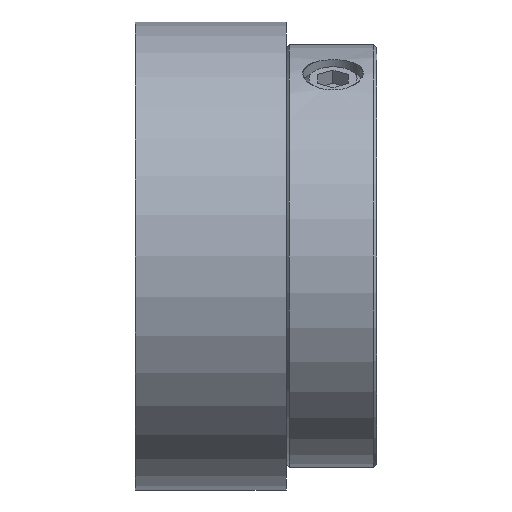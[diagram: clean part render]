
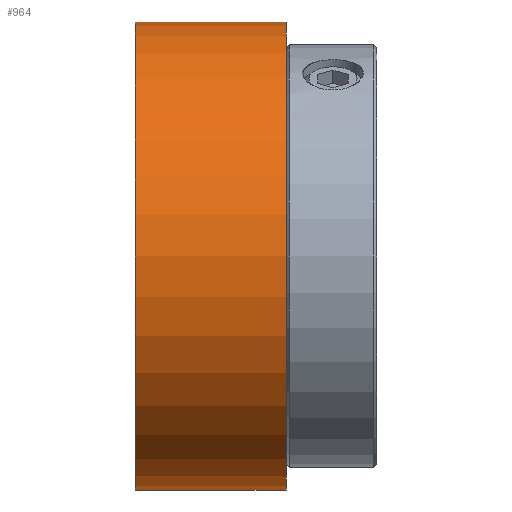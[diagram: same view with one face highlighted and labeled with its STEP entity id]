
A CAD part, front view. The second image highlights one B-rep face of the part: STEP entity #964.
In plain terms, the highlighted cylindrical face has radius 15.5 mm (diameter 31 mm), a full revolution.
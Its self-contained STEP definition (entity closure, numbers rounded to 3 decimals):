
#45 = AXIS2_PLACEMENT_3D ( 'NONE', #395, #396, #397 ) ;
#81 = AXIS2_PLACEMENT_3D ( 'NONE', #391, #392, #393 ) ;
#91 = AXIS2_PLACEMENT_3D ( 'NONE', #1216, #1218, #1219 ) ;
#215 = VERTEX_POINT ( 'NONE', #614 ) ;
#216 = VERTEX_POINT ( 'NONE', #615 ) ;
#242 = EDGE_LOOP ( 'NONE', ( #776 ) ) ;
#264 = CYLINDRICAL_SURFACE ( 'NONE', #91, 15.5 ) ;
#271 = FACE_OUTER_BOUND ( 'NONE', #1456, .T. ) ;
#275 = FACE_OUTER_BOUND ( 'NONE', #242, .T. ) ;
#391 = CARTESIAN_POINT ( 'NONE',  ( 9.5, 0., 0. ) ) ;
#392 = DIRECTION ( 'NONE',  ( 1., 0., 0. ) ) ;
#393 = DIRECTION ( 'NONE',  ( 0., 0., -1. ) ) ;
#395 = CARTESIAN_POINT ( 'NONE',  ( -0.5, 0., 0. ) ) ;
#396 = DIRECTION ( 'NONE',  ( 1., 0., 0. ) ) ;
#397 = DIRECTION ( 'NONE',  ( 0., 0., -1. ) ) ;
#437 = CIRCLE ( 'NONE', #81, 15.5 ) ;
#438 = CIRCLE ( 'NONE', #45, 15.5 ) ;
#614 = CARTESIAN_POINT ( 'NONE',  ( 9.5, 0., -15.5 ) ) ;
#615 = CARTESIAN_POINT ( 'NONE',  ( -0.5, 0., -15.5 ) ) ;
#775 = ORIENTED_EDGE ( 'NONE', *, *, #1300, .T. ) ;
#776 = ORIENTED_EDGE ( 'NONE', *, *, #1299, .F. ) ;
#964 = ADVANCED_FACE ( 'NONE', ( #275, #271 ), #264, .T. ) ;
#1216 = CARTESIAN_POINT ( 'NONE',  ( 9.5, 0., 0. ) ) ;
#1218 = DIRECTION ( 'NONE',  ( -1., 0., 0. ) ) ;
#1219 = DIRECTION ( 'NONE',  ( 0., 0., 1. ) ) ;
#1299 = EDGE_CURVE ( 'NONE', #215, #215, #437, .T. ) ;
#1300 = EDGE_CURVE ( 'NONE', #216, #216, #438, .T. ) ;
#1456 = EDGE_LOOP ( 'NONE', ( #775 ) ) ;
